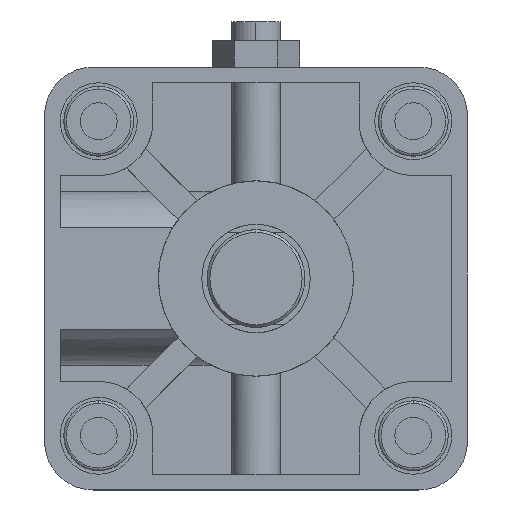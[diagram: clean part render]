
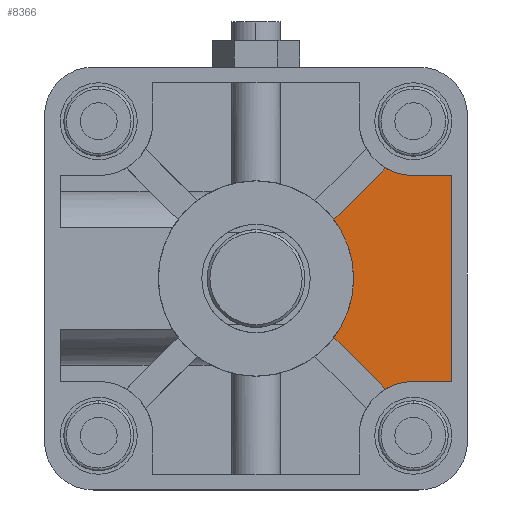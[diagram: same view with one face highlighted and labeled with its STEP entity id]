
A CAD part, left-side view. The second image highlights one B-rep face of the part: STEP entity #8366.
In plain terms, the highlighted planar face has unit normal (-1, 0, 0) as drawn and (1, 0, 0) by its records, which use the part's own axes.
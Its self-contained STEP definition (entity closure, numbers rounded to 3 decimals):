
#8 = CARTESIAN_POINT ( 'NONE',  ( -6., 0., 0. ) ) ;
#95 = EDGE_CURVE ( 'NONE', #7718, #3657, #7619, .T. ) ;
#291 = DIRECTION ( 'NONE',  ( 0., 0., -1. ) ) ;
#341 = CIRCLE ( 'NONE', #5561, 10. ) ;
#350 = VECTOR ( 'NONE', #4759, 1000. ) ;
#400 = CARTESIAN_POINT ( 'NONE',  ( -6., -1.768, 1.768 ) ) ;
#898 = LINE ( 'NONE', #6089, #1760 ) ;
#1220 = FACE_OUTER_BOUND ( 'NONE', #9051, .T. ) ;
#1258 = EDGE_CURVE ( 'NONE', #7718, #5099, #8460, .T. ) ;
#1460 = ORIENTED_EDGE ( 'NONE', *, *, #95, .T. ) ;
#1527 = AXIS2_PLACEMENT_3D ( 'NONE', #8534, #8818, #2896 ) ;
#1557 = ORIENTED_EDGE ( 'NONE', *, *, #3377, .T. ) ;
#1691 = PLANE ( 'NONE',  #1527 ) ;
#1760 = VECTOR ( 'NONE', #2098, 1000. ) ;
#1768 = LINE ( 'NONE', #3106, #350 ) ;
#1853 = EDGE_CURVE ( 'NONE', #2199, #6439, #8069, .T. ) ;
#1890 = AXIS2_PLACEMENT_3D ( 'NONE', #8, #7761, #291 ) ;
#2093 = VERTEX_POINT ( 'NONE', #7140 ) ;
#2098 = DIRECTION ( 'NONE',  ( 0., 0., -1. ) ) ;
#2199 = VERTEX_POINT ( 'NONE', #5890 ) ;
#2243 = VERTEX_POINT ( 'NONE', #3091 ) ;
#2254 = CARTESIAN_POINT ( 'NONE',  ( -6., -36.1, -19. ) ) ;
#2306 = DIRECTION ( 'NONE',  ( 0., 0.707, -0.707 ) ) ;
#2542 = CARTESIAN_POINT ( 'NONE',  ( -6., 0., -19. ) ) ;
#2614 = DIRECTION ( 'NONE',  ( 0., 0., -1. ) ) ;
#2652 = VECTOR ( 'NONE', #2306, 1000. ) ;
#2896 = DIRECTION ( 'NONE',  ( 0., 0., -1. ) ) ;
#3091 = CARTESIAN_POINT ( 'NONE',  ( -6., -36.1, 19. ) ) ;
#3106 = CARTESIAN_POINT ( 'NONE',  ( -6., 0., 19. ) ) ;
#3134 = DIRECTION ( 'NONE',  ( 1., 0., 0. ) ) ;
#3377 = EDGE_CURVE ( 'NONE', #4889, #6439, #4110, .T. ) ;
#3648 = AXIS2_PLACEMENT_3D ( 'NONE', #3775, #8694, #2614 ) ;
#3657 = VERTEX_POINT ( 'NONE', #8449 ) ;
#3658 = EDGE_CURVE ( 'NONE', #4889, #3657, #4434, .T. ) ;
#3775 = CARTESIAN_POINT ( 'NONE',  ( -6., -29., -29. ) ) ;
#3837 = EDGE_CURVE ( 'NONE', #2093, #2199, #341, .T. ) ;
#4110 = CIRCLE ( 'NONE', #1890, 18. ) ;
#4265 = ORIENTED_EDGE ( 'NONE', *, *, #3658, .F. ) ;
#4302 = CARTESIAN_POINT ( 'NONE',  ( -6., -14.372, 10.837 ) ) ;
#4323 = CARTESIAN_POINT ( 'NONE',  ( -6., -29., 29. ) ) ;
#4396 = ORIENTED_EDGE ( 'NONE', *, *, #1258, .F. ) ;
#4399 = EDGE_CURVE ( 'NONE', #2243, #5099, #898, .T. ) ;
#4434 = LINE ( 'NONE', #400, #7213 ) ;
#4540 = VECTOR ( 'NONE', #5309, 1000. ) ;
#4759 = DIRECTION ( 'NONE',  ( 0., -1., 0. ) ) ;
#4773 = CARTESIAN_POINT ( 'NONE',  ( -6., -29., -19. ) ) ;
#4820 = ORIENTED_EDGE ( 'NONE', *, *, #4995, .T. ) ;
#4889 = VERTEX_POINT ( 'NONE', #4904 ) ;
#4904 = CARTESIAN_POINT ( 'NONE',  ( -6., -14.372, -10.837 ) ) ;
#4995 = EDGE_CURVE ( 'NONE', #2093, #2243, #1768, .T. ) ;
#5099 = VERTEX_POINT ( 'NONE', #2254 ) ;
#5309 = DIRECTION ( 'NONE',  ( 0., -1., 0. ) ) ;
#5561 = AXIS2_PLACEMENT_3D ( 'NONE', #4323, #3134, #5779 ) ;
#5779 = DIRECTION ( 'NONE',  ( 0., 0., -1. ) ) ;
#5890 = CARTESIAN_POINT ( 'NONE',  ( -6., -23.921, 20.386 ) ) ;
#5967 = CARTESIAN_POINT ( 'NONE',  ( -6., -1.768, -1.768 ) ) ;
#6089 = CARTESIAN_POINT ( 'NONE',  ( -6., -36.1, 0. ) ) ;
#6400 = ORIENTED_EDGE ( 'NONE', *, *, #4399, .T. ) ;
#6415 = ORIENTED_EDGE ( 'NONE', *, *, #3837, .F. ) ;
#6439 = VERTEX_POINT ( 'NONE', #4302 ) ;
#7140 = CARTESIAN_POINT ( 'NONE',  ( -6., -29., 19. ) ) ;
#7213 = VECTOR ( 'NONE', #7840, 1000. ) ;
#7619 = CIRCLE ( 'NONE', #3648, 10. ) ;
#7718 = VERTEX_POINT ( 'NONE', #4773 ) ;
#7761 = DIRECTION ( 'NONE',  ( -1., 0., 0. ) ) ;
#7840 = DIRECTION ( 'NONE',  ( 0., -0.707, -0.707 ) ) ;
#8069 = LINE ( 'NONE', #5967, #2652 ) ;
#8366 = ADVANCED_FACE ( 'NONE', ( #1220 ), #1691, .T. ) ;
#8449 = CARTESIAN_POINT ( 'NONE',  ( -6., -23.921, -20.386 ) ) ;
#8460 = LINE ( 'NONE', #2542, #4540 ) ;
#8534 = CARTESIAN_POINT ( 'NONE',  ( -6., 0., 0. ) ) ;
#8616 = ORIENTED_EDGE ( 'NONE', *, *, #1853, .F. ) ;
#8694 = DIRECTION ( 'NONE',  ( -1., 0., 0. ) ) ;
#8818 = DIRECTION ( 'NONE',  ( 1., 0., 0. ) ) ;
#9051 = EDGE_LOOP ( 'NONE', ( #8616, #6415, #4820, #6400, #4396, #1460, #4265, #1557 ) ) ;
